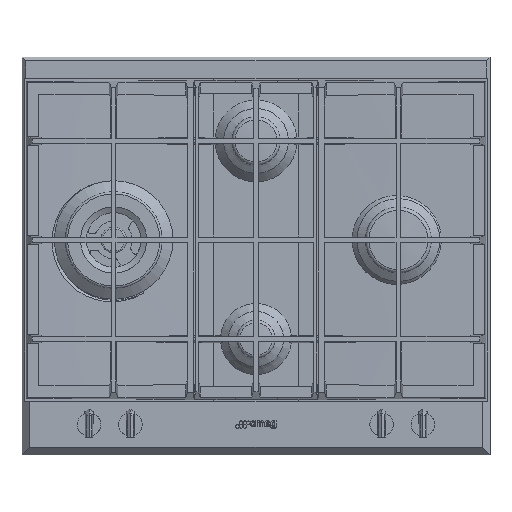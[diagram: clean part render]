
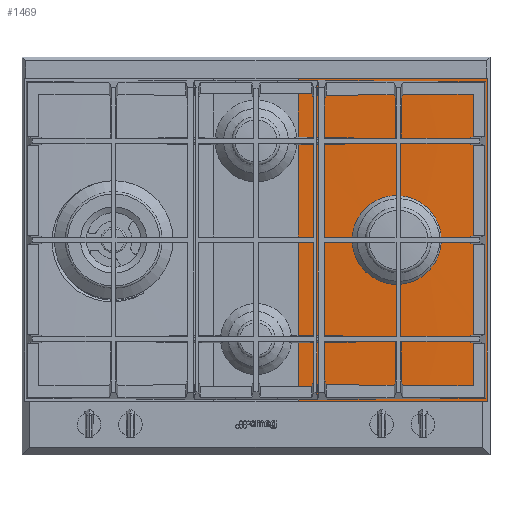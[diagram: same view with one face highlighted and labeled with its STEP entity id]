
A CAD part, top view. The second image highlights one B-rep face of the part: STEP entity #1469.
In plain terms, the highlighted cylindrical face has radius 9313.18 mm (diameter 18626.4 mm), a partial arc.
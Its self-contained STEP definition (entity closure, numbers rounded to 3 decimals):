
#206=B_SPLINE_CURVE_WITH_KNOTS('',3,(#18127,#18128,#18129,#18130,#18131,
#18132,#18133,#18134,#18135,#18136,#18137,#18138,#18139,#18140,#18141,#18142,
#18143,#18144,#18145,#18146,#18147,#18148,#18149,#18150,#18151,#18152,#18153,
#18154,#18155,#18156,#18157,#18158,#18159,#18160,#18161,#18162,#18163,#18164,
#18165,#18166,#18167,#18168,#18169,#18170,#18171,#18172,#18173,#18174,#18175,
#18176,#18177,#18178,#18179,#18180,#18181,#18182,#18183,#18184,#18185,#18186),
 .UNSPECIFIED.,.T.,.F.,(2,2,2,2,2,2,2,2,2,2,2,2,2,2,2,2,2,2,2,2,2,2,2,2,
2,2,2,2,2,2,2,2),(-0.031,0.,0.031,0.063,0.094,
0.125,0.188,0.219,0.25,0.281,
0.313,0.344,0.375,0.406,
0.438,0.469,0.5,0.563,
0.594,0.625,0.656,0.688,
0.719,0.75,0.781,0.813,
0.844,0.875,0.938,0.969,1.,1.031),
 .UNSPECIFIED.);
#535=ELLIPSE('',#11368,9641.71,9313.177);
#537=ELLIPSE('',#11374,9641.71,9313.177);
#538=ELLIPSE('',#11393,9641.71,9313.177);
#539=ELLIPSE('',#11394,9641.71,9313.177);
#679=CYLINDRICAL_SURFACE('',#11397,9313.177);
#946=FACE_BOUND('',#3055,.T.);
#947=FACE_BOUND('',#3056,.T.);
#1469=ADVANCED_FACE('',(#946,#947),#679,.T.);
#3055=EDGE_LOOP('',(#5761));
#3056=EDGE_LOOP('',(#5762,#5763,#5764,#5765,#5766,#5767,#5768,#5769,#5770,
#5771,#5772,#5773));
#3448=CIRCLE('',#11395,9313.177);
#3449=CIRCLE('',#11396,9313.177);
#5761=ORIENTED_EDGE('',*,*,#8524,.T.);
#5762=ORIENTED_EDGE('',*,*,#8494,.F.);
#5763=ORIENTED_EDGE('',*,*,#8525,.T.);
#5764=ORIENTED_EDGE('',*,*,#8526,.T.);
#5765=ORIENTED_EDGE('',*,*,#8473,.T.);
#5766=ORIENTED_EDGE('',*,*,#8502,.F.);
#5767=ORIENTED_EDGE('',*,*,#8527,.T.);
#5768=ORIENTED_EDGE('',*,*,#8528,.T.);
#5769=ORIENTED_EDGE('',*,*,#8486,.T.);
#5770=ORIENTED_EDGE('',*,*,#8529,.F.);
#5771=ORIENTED_EDGE('',*,*,#8530,.F.);
#5772=ORIENTED_EDGE('',*,*,#8520,.F.);
#5773=ORIENTED_EDGE('',*,*,#8531,.T.);
#7150=VERTEX_POINT('',#18018);
#7151=VERTEX_POINT('',#18020);
#7162=VERTEX_POINT('',#18052);
#7163=VERTEX_POINT('',#18054);
#7168=VERTEX_POINT('',#18068);
#7169=VERTEX_POINT('',#18070);
#7174=VERTEX_POINT('',#18083);
#7187=VERTEX_POINT('',#18119);
#7188=VERTEX_POINT('',#18121);
#7189=VERTEX_POINT('',#18187);
#7190=VERTEX_POINT('',#18189);
#7191=VERTEX_POINT('',#18192);
#7192=VERTEX_POINT('',#18195);
#8473=EDGE_CURVE('',#7151,#7150,#535,.T.);
#8486=EDGE_CURVE('',#7163,#7162,#537,.T.);
#8494=EDGE_CURVE('',#7168,#7169,#9558,.T.);
#8502=EDGE_CURVE('',#7174,#7150,#9564,.T.);
#8520=EDGE_CURVE('',#7187,#7188,#9578,.T.);
#8524=EDGE_CURVE('',#7189,#7189,#206,.T.);
#8525=EDGE_CURVE('',#7168,#7190,#538,.T.);
#8526=EDGE_CURVE('',#7190,#7151,#9582,.T.);
#8527=EDGE_CURVE('',#7174,#7191,#539,.T.);
#8528=EDGE_CURVE('',#7191,#7163,#9583,.T.);
#8529=EDGE_CURVE('',#7192,#7162,#9584,.T.);
#8530=EDGE_CURVE('',#7188,#7192,#3448,.T.);
#8531=EDGE_CURVE('',#7187,#7169,#3449,.T.);
#9558=LINE('',#18069,#10514);
#9564=LINE('',#18084,#10520);
#9578=LINE('',#18120,#10534);
#9582=LINE('',#18190,#10538);
#9583=LINE('',#18193,#10539);
#9584=LINE('',#18194,#10540);
#10514=VECTOR('',#13729,1.);
#10520=VECTOR('',#13741,1.);
#10534=VECTOR('',#13773,1.);
#10538=VECTOR('',#13783,1.);
#10539=VECTOR('',#13786,1.);
#10540=VECTOR('',#13787,1.);
#11368=AXIS2_PLACEMENT_3D('',#18019,#13694,#13695);
#11374=AXIS2_PLACEMENT_3D('',#18053,#13714,#13715);
#11393=AXIS2_PLACEMENT_3D('',#18188,#13781,#13782);
#11394=AXIS2_PLACEMENT_3D('',#18191,#13784,#13785);
#11395=AXIS2_PLACEMENT_3D('',#18196,#13788,#13789);
#11396=AXIS2_PLACEMENT_3D('',#18197,#13790,#13791);
#11397=AXIS2_PLACEMENT_3D('',#18198,#13792,#13793);
#13694=DIRECTION('',(0.,-0.966,0.259));
#13695=DIRECTION('',(0.,-0.259,-0.966));
#13714=DIRECTION('',(0.,-0.966,0.259));
#13715=DIRECTION('',(0.,-0.259,-0.966));
#13729=DIRECTION('',(0.,1.,0.));
#13741=DIRECTION('',(0.,1.,0.));
#13773=DIRECTION('',(0.,-1.,0.));
#13781=DIRECTION('',(0.,0.966,0.259));
#13782=DIRECTION('',(0.,-0.259,0.966));
#13783=DIRECTION('',(0.,-1.,0.));
#13784=DIRECTION('',(0.,0.966,0.259));
#13785=DIRECTION('',(0.,-0.259,0.966));
#13786=DIRECTION('',(0.,-1.,0.));
#13787=DIRECTION('',(0.,1.,0.));
#13788=DIRECTION('',(0.,-1.,0.));
#13789=DIRECTION('',(-1.,0.,0.));
#13790=DIRECTION('',(0.,-1.,0.));
#13791=DIRECTION('',(-1.,0.,0.));
#13792=DIRECTION('',(0.,-1.,0.));
#13793=DIRECTION('',(0.,0.,-1.));
#18018=CARTESIAN_POINT('',(54.,392.321,-4.169));
#18019=CARTESIAN_POINT('',(529.251,-2099.886,-9305.212));
#18020=CARTESIAN_POINT('',(294.25,394.777,5.));
#18052=CARTESIAN_POINT('',(54.,138.321,-4.169));
#18053=CARTESIAN_POINT('',(529.251,-2353.886,-9305.212));
#18054=CARTESIAN_POINT('',(294.25,140.777,5.));
#18068=CARTESIAN_POINT('',(54.,401.679,-4.169));
#18069=CARTESIAN_POINT('',(54.,476.94,-4.169));
#18070=CARTESIAN_POINT('',(54.,476.94,-4.169));
#18083=CARTESIAN_POINT('',(54.,147.679,-4.169));
#18084=CARTESIAN_POINT('',(54.,476.94,-4.169));
#18119=CARTESIAN_POINT('',(296.768,476.94,5.063));
#18120=CARTESIAN_POINT('',(296.768,476.94,5.063));
#18121=CARTESIAN_POINT('',(296.768,63.5,5.063));
#18127=CARTESIAN_POINT('',(236.763,279.503,3.371));
#18128=CARTESIAN_POINT('',(237.528,272.012,3.395));
#18129=CARTESIAN_POINT('',(237.536,268.282,3.395));
#18130=CARTESIAN_POINT('',(236.82,260.854,3.373));
#18131=CARTESIAN_POINT('',(236.084,257.133,3.35));
#18132=CARTESIAN_POINT('',(233.929,250.016,3.282));
#18133=CARTESIAN_POINT('',(232.511,246.583,3.237));
#18134=CARTESIAN_POINT('',(228.981,239.975,3.124));
#18135=CARTESIAN_POINT('',(226.888,236.851,3.056));
#18136=CARTESIAN_POINT('',(219.821,228.248,2.825));
#18137=CARTESIAN_POINT('',(213.91,223.401,2.627));
#18138=CARTESIAN_POINT('',(204.082,218.145,2.288));
#18139=CARTESIAN_POINT('',(200.581,216.693,2.165));
#18140=CARTESIAN_POINT('',(193.455,214.528,1.91));
#18141=CARTESIAN_POINT('',(189.818,213.799,1.778));
#18142=CARTESIAN_POINT('',(182.395,213.051,1.505));
#18143=CARTESIAN_POINT('',(178.613,213.044,1.363));
#18144=CARTESIAN_POINT('',(171.226,213.749,1.082));
#18145=CARTESIAN_POINT('',(167.578,214.456,0.941));
#18146=CARTESIAN_POINT('',(160.378,216.606,0.658));
#18147=CARTESIAN_POINT('',(156.927,218.02,0.52));
#18148=CARTESIAN_POINT('',(150.366,221.482,0.256));
#18149=CARTESIAN_POINT('',(147.218,223.558,0.127));
#18150=CARTESIAN_POINT('',(141.413,228.268,-0.113));
#18151=CARTESIAN_POINT('',(138.774,230.877,-0.224));
#18152=CARTESIAN_POINT('',(134.02,236.597,-0.425));
#18153=CARTESIAN_POINT('',(131.893,239.74,-0.515));
#18154=CARTESIAN_POINT('',(128.351,246.281,-0.667));
#18155=CARTESIAN_POINT('',(126.911,249.702,-0.729));
#18156=CARTESIAN_POINT('',(124.702,256.85,-0.825));
#18157=CARTESIAN_POINT('',(123.953,260.546,-0.858));
#18158=CARTESIAN_POINT('',(122.82,271.624,-0.907));
#18159=CARTESIAN_POINT('',(123.549,279.239,-0.875));
#18160=CARTESIAN_POINT('',(126.765,289.909,-0.736));
#18161=CARTESIAN_POINT('',(128.211,293.413,-0.673));
#18162=CARTESIAN_POINT('',(131.723,299.99,-0.523));
#18163=CARTESIAN_POINT('',(133.783,303.076,-0.435));
#18164=CARTESIAN_POINT('',(138.512,308.845,-0.235));
#18165=CARTESIAN_POINT('',(141.189,311.522,-0.123));
#18166=CARTESIAN_POINT('',(146.928,316.234,0.115));
#18167=CARTESIAN_POINT('',(150.014,318.303,0.241));
#18168=CARTESIAN_POINT('',(156.635,321.851,0.509));
#18169=CARTESIAN_POINT('',(160.084,323.281,0.646));
#18170=CARTESIAN_POINT('',(167.179,325.448,0.925));
#18171=CARTESIAN_POINT('',(170.873,326.195,1.068));
#18172=CARTESIAN_POINT('',(178.311,326.948,1.352));
#18173=CARTESIAN_POINT('',(182.021,326.96,1.491));
#18174=CARTESIAN_POINT('',(189.424,326.265,1.764));
#18175=CARTESIAN_POINT('',(193.147,325.543,1.899));
#18176=CARTESIAN_POINT('',(200.275,323.421,2.154));
#18177=CARTESIAN_POINT('',(203.711,322.023,2.275));
#18178=CARTESIAN_POINT('',(210.326,318.543,2.504));
#18179=CARTESIAN_POINT('',(213.476,316.465,2.611));
#18180=CARTESIAN_POINT('',(222.127,309.461,2.902));
#18181=CARTESIAN_POINT('',(227.021,303.583,3.061));
#18182=CARTESIAN_POINT('',(232.336,293.794,3.231));
#18183=CARTESIAN_POINT('',(233.806,290.311,3.278));
#18184=CARTESIAN_POINT('',(236.016,283.162,3.348));
#18185=CARTESIAN_POINT('',(236.763,279.503,3.371));
#18186=CARTESIAN_POINT('',(237.528,272.012,3.395));
#18187=CARTESIAN_POINT('',(237.146,275.757,3.383));
#18188=CARTESIAN_POINT('',(529.251,2893.886,-9305.212));
#18189=CARTESIAN_POINT('',(294.25,399.223,5.));
#18190=CARTESIAN_POINT('',(294.25,476.94,5.));
#18191=CARTESIAN_POINT('',(529.251,2639.886,-9305.212));
#18192=CARTESIAN_POINT('',(294.25,145.223,5.));
#18193=CARTESIAN_POINT('',(294.25,476.94,5.));
#18194=CARTESIAN_POINT('',(54.,476.94,-4.169));
#18195=CARTESIAN_POINT('',(54.,63.5,-4.169));
#18196=CARTESIAN_POINT('',(529.251,63.5,-9305.212));
#18197=CARTESIAN_POINT('',(529.251,476.94,-9305.212));
#18198=CARTESIAN_POINT('',(529.251,476.94,-9305.212));
